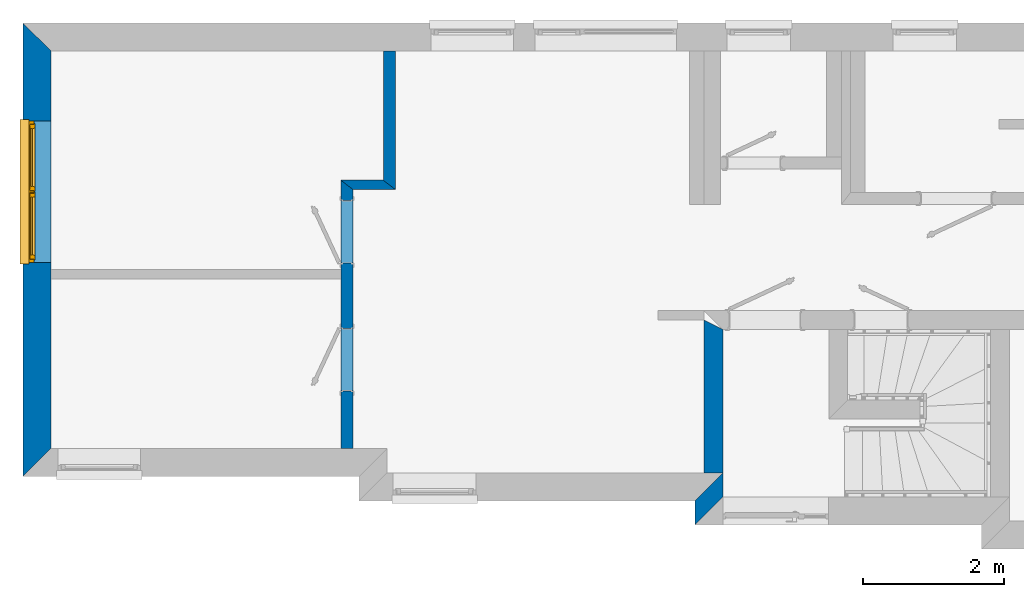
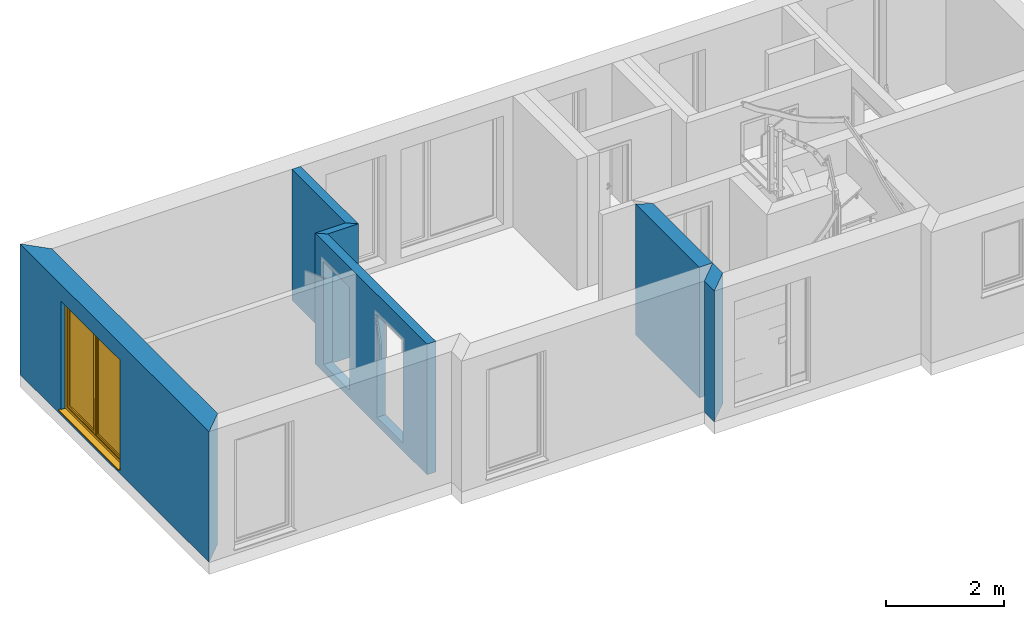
# One storey, part 3 of 13: 6 walls, 1 window, 3 openings.
"""IFC2X3 building model written with IfcOpenShell, lengths in millimetres."""

from ifc_helpers import new_model, si_unit, frame, origin_with_axes, place, context, project, spatial, faceted_brep, material, layer, layer_set, layer_usage, type_object, element, fill, save


model = new_model("IFC2X3")

# Units and contexts
model_context = context("Model", 3, world=origin_with_axes())
ifc_project = project(units=[si_unit("LENGTHUNIT", "METRE", prefix="MILLI")], contexts=[model_context])

# Site, building, storey
site_placement = place(None, origin_with_axes())
site = spatial("IfcSite", under=ifc_project, at=site_placement, Name="Site", CompositionType="ELEMENT")
building_placement = place(site_placement, origin_with_axes())
building = spatial("IfcBuilding", under=site, at=building_placement, Name="?", CompositionType="ELEMENT")
storey_placement = place(building_placement, origin_with_axes())
storey = spatial("IfcBuildingStorey", under=building, at=storey_placement, Name="Erdgeschoß", CompositionType="ELEMENT", Elevation=0.0)

# Wall
ifc_material_1 = material(Name="Material_AW")
ifc_layer_1 = layer(ifc_material_1, 395.0, ventilated=False)
ifc_layer_set_1 = layer_set([ifc_layer_1], Name="MaterialLayerSet_AW")
ifc_layer_usage_1 = layer_usage(ifc_layer_set_1, "AXIS2", "NEGATIVE", 197.5)
wall_1_placement = place(storey_placement, frame((9697.5, -6900.5, 0.0), z_axis=(0.0, 0.0, 1.0), x_axis=(0.0, 1.0, 0.0)))
element("IfcWall", 1, at=wall_1_placement, inside=storey, material=ifc_layer_usage_1, Name="AW-06", context=model_context, shape_type="Brep", body=[
    faceted_brep([(539.500007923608, -197.5, 0.0), (539.500007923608, -197.5, 2707.0), (197.5, -197.5, 2707.0), (197.5, -197.5, 0.0), (144.500007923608, 197.5, 0.0), (144.500007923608, 197.5, 150.0), (144.500007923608, 197.5, 2707.0), (539.500007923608, -197.5, 2707.0), (539.500007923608, -197.5, 0.0), (-197.5, 197.5, 0.0), (-197.5, 197.5, 150.0), (144.500007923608, 197.5, 150.0), (144.500007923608, 197.5, 0.0), (-197.5, 197.5, 150.0), (-197.5, 197.5, 2707.0), (144.500007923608, 197.5, 2707.0), (144.500007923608, 197.5, 150.0), (197.5, -197.5, 0.0), (197.5, -197.5, 2707.0), (-197.5, 197.5, 2707.0), (-197.5, 197.5, 150.0), (-197.5, 197.5, 0.0), (197.5, -197.5, 0.0), (-197.5, 197.5, 0.0), (144.500007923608, 197.5, 0.0), (539.500007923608, -197.5, 0.0), (-197.5, 197.5, 2707.0), (197.5, -197.5, 2707.0), (539.500007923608, -197.5, 2707.0), (144.500007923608, 197.5, 2707.0)], [[[0, 1, 2, 3]], [[4, 5, 6, 7, 8]], [[9, 10, 11, 12]], [[13, 14, 15, 16]], [[17, 18, 19, 20, 21]], [[22, 23, 24, 25]], [[26, 27, 28, 29]]]),
])

# Wall, opening, window
wall_2_placement = place(storey_placement, frame((197.5, -6217.5, 0.0), z_axis=(0.0, 0.0, 1.0), x_axis=(0.0, 1.0, 0.0)))
wall_2 = element("IfcWall", 2, at=wall_2_placement, inside=storey, material=ifc_layer_usage_1, Name="AW-10", context=model_context, shape_type="Brep", body=[
    faceted_brep([(5822.50010878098, -197.5, 0.0), (5822.50010878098, -197.5, 2707.0), (197.5, -197.5, 2707.0), (197.5, -197.5, 0.0), (6217.49987570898, 197.5, 0.0), (6217.49987570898, 197.5, 150.0), (6217.49987570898, 197.5, 2707.0), (5822.50010878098, -197.5, 2707.0), (5822.50010878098, -197.5, 0.0), (-197.5, 197.5, 0.0), (-197.5, 197.5, 150.0), (2829.5, 197.5, 150.0), (2829.5, 197.5, 116.0), (4829.5, 197.5, 116.0), (4829.5, 197.5, 150.0), (6217.49987570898, 197.5, 150.0), (6217.49987570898, 197.5, 0.0), (-197.5, 197.5, 150.0), (-197.5, 197.5, 2707.0), (6217.49987570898, 197.5, 2707.0), (6217.49987570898, 197.5, 150.0), (4829.5, 197.5, 150.0), (4829.5, 197.5, 116.0), (2829.5, 197.5, 116.0), (2829.5, 197.5, 150.0), (197.5, -197.5, 0.0), (197.5, -197.5, 2707.0), (-197.5, 197.5, 2707.0), (-197.5, 197.5, 150.0), (-197.5, 197.5, 0.0), (197.5, -197.5, 0.0), (-197.5, 197.5, 0.0), (6217.49987570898, 197.5, 0.0), (5822.50010878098, -197.5, 0.0), (-197.5, 197.5, 2707.0), (197.5, -197.5, 2707.0), (5822.50010878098, -197.5, 2707.0), (6217.49987570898, 197.5, 2707.0)], [[[0, 1, 2, 3]], [[4, 5, 6, 7, 8]], [[9, 10, 11, 12, 13, 14, 15, 16]], [[17, 18, 19, 20, 21, 22, 23, 24]], [[25, 26, 27, 28, 29]], [[30, 31, 32, 33]], [[34, 35, 36, 37]]]),
])
opening_1_placement = place(wall_2_placement, frame((2829.5, 0.0, 116.0), z_axis=(0.0, 0.0, 1.0), x_axis=(1.0, 0.0, 0.0)))
opening_1 = element("IfcOpeningElement", 3, at=opening_1_placement, cuts=wall_2, Name="AW-10|FE09", context=model_context, shape_type="Brep", body=[
    faceted_brep([(0.0, 207.5, 0.0), (0.0, 207.5, 2244.0), (2000.0, 207.5, 2244.0), (2000.0, 207.5, 0.0), (0.0, -207.5, 0.0), (0.0, -207.5, 2244.0), (0.0, 207.5, 2244.0), (0.0, 207.5, 0.0), (2000.0, -207.5, 0.0), (0.0, -207.5, 0.0), (0.0, 207.5, 0.0), (2000.0, 207.5, 0.0), (2000.0, -207.5, 2244.0), (2000.0, -207.5, 0.0), (2000.0, 207.5, 0.0), (2000.0, 207.5, 2244.0), (0.0, -207.5, 2244.0), (2000.0, -207.5, 2244.0), (2000.0, 207.5, 2244.0), (0.0, 207.5, 2244.0), (0.0, -207.5, 0.0), (2000.0, -207.5, 0.0), (2000.0, -207.5, 2244.0), (0.0, -207.5, 2244.0)], [[[0, 1, 2, 3]], [[4, 5, 6, 7]], [[8, 9, 10, 11]], [[12, 13, 14, 15]], [[16, 17, 18, 19]], [[20, 21, 22, 23]]]),
])
window_style = type_object("IfcWindowStyle", Name="FE09", ConstructionType="NOTDEFINED", OperationType="DOUBLE_PANEL_VERTICAL", ParameterTakesPrecedence=True, Sizeable=False)
window_placement = place(opening_1_placement, frame((2000.0, 77.5, 0.0), z_axis=(0.0, 0.0, 1.0), x_axis=(-1.0, 0.0, 0.0)))
window = element("IfcWindow", 4, at=window_placement, inside=storey, type_object=window_style, Name="FE09", OverallHeight=2244.0, OverallWidth=2000.0, context=model_context, shape_type="Brep", body=[
    faceted_brep([(0.0, -36.0, 0.0), (2000.0, -36.0, 0.0), (1985.0, -36.0, 15.0), (15.0, -36.0, 15.0), (15.0, 36.0, 15.0), (1985.0, 36.0, 15.0), (2000.0, 36.0, 0.0), (0.0, 36.0, 0.0), (0.0, 36.0, 0.0), (2000.0, 36.0, 0.0), (2000.0, -36.0, 0.0), (0.0, -36.0, 0.0), (2000.0, -36.0, 0.0), (2000.0, -36.0, 2244.0), (1985.0, -36.0, 2229.0), (1985.0, -36.0, 15.0), (1985.0, 36.0, 15.0001220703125), (1985.0, 36.0, 2229.0), (2000.0, 36.0, 2244.0), (2000.0, 36.0, 0.0001220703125), (2000.0, 36.0, 0.0), (2000.0, 36.0, 2244.0), (2000.0, -36.0, 2244.0), (2000.0, -36.0, 0.0), (2000.0, -36.0, 2244.0), (0.0, -36.0, 2244.0), (15.0, -36.0, 2229.0), (1985.0, -36.0, 2229.0), (1985.0, 36.0, 2229.0), (15.0, 36.0, 2229.0), (0.0, 36.0, 2244.0), (2000.0, 36.0, 2244.0), (2000.0, 36.0, 2244.0), (0.0, 36.0, 2244.0), (0.0, -36.0, 2244.0), (2000.0, -36.0, 2244.0), (0.0, -36.0, 2244.0), (0.0, -36.0, 0.0), (15.0, -36.0, 15.0), (15.0, -36.0, 2229.0), (15.0, 36.0, 2228.99975585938), (15.0, 36.0, 14.999755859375), (0.0, 36.0, -0.000244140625), (0.0, 36.0, 2243.99975585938), (0.0, 36.0, 2244.0), (0.0, 36.0, 0.0), (0.0, -36.0, 0.0), (0.0, -36.0, 2244.0), (1000.0, 36.0, 15.0), (15.0, 36.0, 15.0), (43.0, 36.0, 43.0), (1000.0, 36.0, 43.0), (1000.0, 36.0, 43.0), (43.0, 36.0, 43.0), (43.0, -21.0, 43.0), (1000.0, -21.0, 43.0), (1000.0, -21.0, 43.0), (43.0, -21.0, 43.0), (60.0, -21.0, 60.0), (1000.0, -21.0, 60.0), (1000.0, -21.0, 60.0), (60.0, -21.0, 60.0), (60.0, -25.0, 60.0), (1000.0, -25.0, 60.0), (1000.0, -25.0, 60.0), (60.0, -25.0, 60.0), (53.0, -36.0009764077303, 52.99914512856), (1000.0, -36.0009764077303, 52.99914512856), (1000.0, -36.0, 53.0), (53.0, -36.0, 53.0), (15.0, -36.0, 15.0), (1000.0, -36.0, 15.0), (15.0, 36.0, 2229.0), (1000.0, 36.0, 2229.0), (1000.0, 36.0, 2201.0), (43.0, 36.0, 2201.0), (42.999755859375, 36.0, 2201.0), (999.999755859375, 36.0, 2201.0), (999.999755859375, -21.0, 2201.0), (42.999755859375, -21.0, 2201.0), (42.999755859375, -21.0, 2201.0), (999.999755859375, -21.0, 2201.0), (999.999755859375, -21.0, 2184.0), (59.999755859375, -21.0, 2184.0), (60.0, -21.0, 2184.0), (1000.0, -21.0, 2184.0), (1000.0, -25.0, 2184.0), (60.0, -25.0, 2184.0), (60.0, -25.0, 2184.0), (1000.0, -25.0, 2184.0), (1000.0, -36.0009765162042, 2191.00097633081), (53.0, -36.0009765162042, 2191.00097633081), (52.999755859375, -36.0, 2191.0), (999.999755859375, -36.0, 2191.0), (999.999755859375, -36.0, 2229.0), (14.999755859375, -36.0, 2229.0), (15.0, 36.0, 15.0), (15.0, 36.0, 2229.0), (43.0, 36.0, 2201.0), (43.0, 36.0, 43.0), (43.0, 36.0, 42.9999389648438), (43.0, 36.0, 2201.0), (43.0, -21.0, 2201.0), (43.0, -21.0, 42.9999389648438), (43.0, -21.0, 42.9999389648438), (43.0, -21.0, 2201.0), (60.0, -21.0, 2184.0), (60.0, -21.0, 59.9999389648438), (60.0, -21.0, 60.0000305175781), (60.0, -21.0, 2184.0), (60.0, -25.0, 2184.0), (60.0, -25.0, 60.0000305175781), (60.0, -25.0, 60.0000305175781), (60.0, -25.0, 2184.0), (52.9990236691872, -36.0009765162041, 2191.0), (52.9990236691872, -36.0009765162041, 53.0000305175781), (53.0, -36.0, 53.0), (53.0, -36.0, 2191.0), (15.0, -36.0, 2229.0), (15.0, -36.0, 15.0), (1985.0, 36.0, 15.0), (1000.0, 36.0, 15.0), (1000.0, 36.0, 43.0), (1957.0, 36.0, 43.0), (1957.0, 36.0, 43.0), (1000.0, 36.0, 43.0), (1000.0, -21.0, 43.0), (1957.0, -21.0, 43.0), (1957.0, -21.0, 43.0), (1000.0, -21.0, 43.0), (1000.0, -21.0, 60.0), (1940.0, -21.0, 60.0), (1940.0, -21.0, 60.0), (1000.0, -21.0, 60.0), (1000.0, -25.0, 60.0), (1940.0, -25.0, 60.0), (1940.0, -25.0, 60.0), (1000.0, -25.0, 60.0), (1000.0, -36.0009764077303, 52.99914512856), (1947.0, -36.0009764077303, 52.99914512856), (1947.0, -36.0, 53.0), (1000.0, -36.0, 53.0), (1000.0, -36.0, 15.0), (1985.0, -36.0, 15.0), (1985.0, 36.0, 2229.0), (1985.0, 36.0, 15.0), (1957.0, 36.0, 43.0), (1957.0, 36.0, 2201.0), (1957.0, 36.0, 2201.0), (1957.0, 36.0, 43.0), (1957.0, -21.0, 43.0), (1957.0, -21.0, 2201.0), (1957.0, -21.0, 2201.0), (1957.0, -21.0, 43.0), (1940.0, -21.0, 60.0), (1940.0, -21.0, 2184.0), (1940.0, -21.0, 2184.0), (1940.0, -21.0, 60.0), (1940.0, -25.0, 60.0), (1940.0, -25.0, 2184.0), (1940.0, -25.0, 2184.0), (1940.0, -25.0, 60.0), (1947.00097633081, -36.0009765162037, 53.0), (1947.00097633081, -36.0009765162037, 2191.0), (1947.0, -36.0, 2191.0), (1947.0, -36.0, 53.0), (1985.0, -36.0, 15.0), (1985.0, -36.0, 2229.0), (1000.0, 36.0, 2229.0), (1985.0, 36.0, 2229.0), (1957.0, 36.0, 2201.0), (1000.0, 36.0, 2201.0), (1000.0, 36.0, 2201.0), (1957.0, 36.0, 2201.0), (1957.0, -21.0, 2201.0), (1000.0, -21.0, 2201.0), (1000.0, -21.0, 2201.0), (1957.0, -21.0, 2201.0), (1940.0, -21.0, 2184.0), (1000.0, -21.0, 2184.0), (1000.0, -21.0, 2184.0), (1940.0, -21.0, 2184.0), (1940.0, -25.0, 2184.0), (1000.0, -25.0, 2184.0), (1000.0, -25.0, 2184.0), (1940.0, -25.0, 2184.0), (1947.0, -36.0009765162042, 2191.00097633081), (1000.0, -36.0009765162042, 2191.00097633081), (1000.0, -36.0, 2191.0), (1947.0, -36.0, 2191.0), (1985.0, -36.0, 2229.0), (1000.0, -36.0, 2229.0), (997.0, 52.0, 33.0), (33.0, 52.0, 33.0), (96.0, 52.0, 96.0), (934.0, 52.0, 96.0), (934.000244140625, 52.0, 96.0), (96.000244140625, 52.0, 96.0), (110.000244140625, 19.9990238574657, 110.000610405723), (920.000244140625, 19.9990238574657, 110.000610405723), (920.0, 20.0, 110.0), (110.0, 20.0, 110.0), (103.0, 20.0, 103.0), (927.0, 20.0, 103.0), (927.0, 20.0, 103.0), (103.0, 20.0, 103.0), (103.0, -4.0, 103.0), (927.0, -4.0, 103.0), (927.0, -4.0, 103.0), (103.0, -4.0, 103.0), (110.0, -4.0, 110.0), (920.0, -4.0, 110.0), (920.0, -4.0, 110.0), (110.0, -4.0, 110.0), (102.0, -21.0019530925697, 101.999267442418), (928.0, -21.0019530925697, 101.999267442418), (928.0, -21.0, 102.0), (102.0, -21.0, 102.0), (51.0, -21.0, 51.0), (979.0, -21.0, 51.0), (979.0, -21.0, 51.0), (51.0, -21.0, 51.0), (51.0, 36.0, 51.0), (979.0, 36.0, 51.0), (979.0, 36.0, 51.0), (51.0, 36.0, 51.0), (33.0, 36.0, 33.0), (997.0, 36.0, 33.0), (997.0, 36.0, 33.0), (33.0, 36.0, 33.0), (33.0, 52.0, 33.0), (997.0, 52.0, 33.0), (997.0, 52.0, 2211.0), (997.0, 52.0, 33.0), (934.0, 52.0, 96.0), (934.0, 52.0, 2148.0), (934.0, 51.9999999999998, 2148.0), (934.0, 51.9999999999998, 96.0), (919.999511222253, 19.9990228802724, 110.0), (919.999511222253, 19.9990228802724, 2134.0), (920.0, 20.0, 2134.0), (920.0, 20.0, 110.0), (927.0, 20.0, 103.0), (927.0, 20.0, 2141.0), (927.0, 20.0, 2141.0), (927.0, 20.0, 103.0), (927.0, -4.0, 103.0), (927.0, -4.0, 2141.0), (927.0, -4.0, 2141.0), (927.0, -4.0, 103.0), (920.0, -4.0, 110.0), (920.0, -4.0, 2134.0), (920.0, -4.00000000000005, 2134.0), (920.0, -4.00000000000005, 110.0), (928.000732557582, -21.0019530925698, 102.0), (928.000732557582, -21.0019530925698, 2142.0), (928.0, -21.0, 2142.0), (928.0, -21.0, 102.0), (979.0, -21.0, 51.0), (979.0, -21.0, 2193.0), (979.0, -21.0, 2193.0), (979.0, -21.0, 51.0), (979.0, 36.0, 51.0), (979.0, 36.0, 2193.0), (979.0, 36.0, 2193.0), (979.0, 36.0, 51.0), (997.0, 36.0, 33.0), (997.0, 36.0, 2211.0), (997.0, 36.0, 2211.0), (997.0, 36.0, 33.0), (997.0, 52.0, 33.0), (997.0, 52.0, 2211.0), (33.0, 52.0, 2211.0), (997.0, 52.0, 2211.0), (934.0, 52.0, 2148.0), (96.0, 52.0, 2148.0), (95.9999999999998, 52.0, 2148.0), (934.0, 52.0, 2148.0), (920.0, 19.9990228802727, 2133.99951122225), (110.0, 19.9990228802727, 2133.99951122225), (109.999755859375, 20.0, 2134.0), (919.999755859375, 20.0, 2134.0), (926.999755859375, 20.0, 2141.0), (102.999755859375, 20.0, 2141.0), (102.999755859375, 20.0, 2141.0), (926.999755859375, 20.0, 2141.0), (926.999755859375, -4.0, 2141.0), (102.999755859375, -4.0, 2141.0), (102.999755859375, -4.0, 2141.0), (926.999755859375, -4.0, 2141.0), (919.999755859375, -4.0, 2134.0), (109.999755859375, -4.0, 2134.0), (109.999755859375, -4.0, 2134.0), (919.999755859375, -4.0, 2134.0), (927.999755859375, -21.0019530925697, 2142.00073255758), (101.999755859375, -21.0019530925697, 2142.00073255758), (102.0, -21.0, 2142.0), (928.0, -21.0, 2142.0), (979.0, -21.0, 2193.0), (51.0, -21.0, 2193.0), (51.0, -21.0, 2193.0), (979.0, -21.0, 2193.0), (979.0, 36.0, 2193.0), (51.0, 36.0, 2193.0), (51.0, 36.0, 2193.0), (979.0, 36.0, 2193.0), (997.0, 36.0, 2211.0), (33.0, 36.0, 2211.0), (33.0, 36.0, 2211.0), (997.0, 36.0, 2211.0), (997.0, 52.0, 2211.0), (33.0, 52.0, 2211.0), (33.0, 52.0, 33.0000305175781), (33.0, 52.0, 2211.0), (96.0, 52.0, 2148.0), (96.0, 52.0, 96.0000305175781), (96.0, 52.0, 96.0000305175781), (96.0, 52.0, 2148.0), (110.000488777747, 19.9990228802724, 2134.0), (110.000488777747, 19.9990228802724, 110.000030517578), (110.0, 20.0, 110.0), (110.0, 20.0, 2134.0), (103.0, 20.0, 2141.0), (103.0, 20.0, 103.0), (103.0, 20.0, 102.999969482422), (103.0, 20.0, 2141.0), (103.0, -4.0, 2141.0), (103.0, -4.0, 102.999969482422), (103.0, -4.0, 102.999969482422), (103.0, -4.0, 2141.0), (110.0, -4.0, 2134.0), (110.0, -4.0, 109.999969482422), (110.0, -4.0, 110.0), (110.0, -4.0, 2134.0), (101.999267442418, -21.0019530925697, 2142.0), (101.999267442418, -21.0019530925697, 102.0), (102.0, -21.0, 102.0), (102.0, -21.0, 2142.0), (51.0, -21.0, 2193.0), (51.0, -21.0, 51.0), (51.0, -21.0, 51.0), (51.0, -21.0, 2193.0), (51.0, 36.0, 2193.0), (51.0, 36.0, 51.0), (51.0, 36.0, 51.0), (51.0, 36.0, 2193.0), (33.0, 36.0, 2211.0), (33.0, 36.0, 33.0), (33.0, 36.0, 33.0000305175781), (33.0, 36.0, 2211.0), (33.0, 52.0, 2211.0), (33.0, 52.0, 33.0000305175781), (1967.0, 52.0, 33.0), (1003.0, 52.0, 33.0), (1066.0, 52.0, 96.0), (1904.0, 52.0, 96.0), (1904.00024414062, 52.0, 96.0), (1066.00024414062, 52.0, 96.0), (1080.00024414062, 19.9990238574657, 110.000610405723), (1890.00024414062, 19.9990238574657, 110.000610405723), (1890.0, 20.0, 110.0), (1080.0, 20.0, 110.0), (1073.0, 20.0, 103.0), (1897.0, 20.0, 103.0), (1897.00024414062, 20.0, 103.0), (1073.00024414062, 20.0, 103.0), (1073.00024414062, -4.00000000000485, 103.00001525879), (1897.00024414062, -4.00000000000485, 103.00001525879), (1897.00024414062, -4.0, 103.0), (1073.00024414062, -4.0, 103.0), (1080.00024414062, -4.0, 110.0), (1890.00024414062, -4.0, 110.0), (1890.0, -4.0, 110.0), (1080.0, -4.0, 110.0), (1072.0, -21.0019530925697, 101.999267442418), (1898.0, -21.0019530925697, 101.999267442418), (1898.0, -21.0, 102.0), (1072.0, -21.0, 102.0), (1021.0, -21.0, 51.0), (1949.0, -21.0, 51.0), (1949.00024414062, -21.0, 51.0), (1021.00024414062, -21.0, 51.0), (1021.00024414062, 36.0, 51.0), (1949.00024414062, 36.0, 51.0), (1949.00024414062, 36.0, 51.0), (1021.00024414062, 36.0, 51.0), (1003.00024414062, 36.0, 33.0), (1967.00024414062, 36.0, 33.0), (1967.0, 36.0, 33.0), (1003.0, 36.0, 33.0), (1003.0, 52.0, 33.0), (1967.0, 52.0, 33.0), (1967.0, 52.0, 2211.0), (1967.0, 52.0, 33.0), (1904.0, 52.0, 96.0), (1904.0, 52.0, 2148.0), (1904.0, 52.0, 2148.0), (1904.0, 52.0, 95.9999999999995), (1889.99951122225, 19.9990228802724, 110.0), (1889.99951122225, 19.9990228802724, 2134.0), (1890.0, 20.0, 2134.0), (1890.0, 20.0, 110.0), (1897.0, 20.0, 103.0), (1897.0, 20.0, 2141.0), (1897.0, 20.0, 2141.0), (1897.0, 20.0, 103.0), (1897.0, -4.0, 103.0), (1897.0, -4.0, 2141.0), (1897.0, -4.0, 2141.0), (1897.0, -4.0, 103.0), (1890.0, -4.0, 110.0), (1890.0, -4.0, 2134.0), (1890.0, -3.9999999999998, 2134.0), (1890.0, -3.9999999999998, 110.0), (1898.00073255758, -21.0019530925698, 102.0), (1898.00073255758, -21.0019530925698, 2142.0), (1898.0, -21.0, 2142.0), (1898.0, -21.0, 102.0), (1949.0, -21.0, 51.0), (1949.0, -21.0, 2193.0), (1949.0, -21.0, 2193.0), (1949.0, -21.0, 51.0), (1949.0, 36.0, 51.0), (1949.0, 36.0, 2193.0), (1949.0, 36.0, 2193.0), (1949.0, 36.0, 51.0), (1967.0, 36.0, 33.0), (1967.0, 36.0, 2211.0), (1967.0, 36.0, 2211.0), (1967.0, 36.0, 33.0), (1967.0, 52.0, 33.0), (1967.0, 52.0, 2211.0), (1003.0, 52.0, 2211.0), (1967.0, 52.0, 2211.0), (1904.0, 52.0, 2148.0), (1066.0, 52.0, 2148.0), (1065.99975585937, 52.0, 2148.0), (1903.99975585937, 52.0, 2148.0), (1889.99975585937, 19.9990228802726, 2133.99951122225), (1079.99975585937, 19.9990228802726, 2133.99951122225), (1079.99975585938, 20.0, 2134.0), (1889.99975585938, 20.0, 2134.0), (1896.99975585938, 20.0, 2141.0), (1072.99975585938, 20.0, 2141.0), (1072.99975585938, 20.0, 2141.0), (1896.99975585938, 20.0, 2141.0), (1896.99975585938, -4.0, 2141.0), (1072.99975585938, -4.0, 2141.0), (1072.99975585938, -4.0, 2141.0), (1896.99975585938, -4.0, 2141.0), (1889.99975585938, -4.0, 2134.0), (1079.99975585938, -4.0, 2134.0), (1079.99975585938, -4.0, 2134.0), (1889.99975585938, -4.0, 2134.0), (1897.99975585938, -21.0019530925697, 2142.00073255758), (1071.99975585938, -21.0019530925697, 2142.00073255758), (1072.0, -21.0, 2142.0), (1898.0, -21.0, 2142.0), (1949.0, -21.0, 2193.0), (1021.0, -21.0, 2193.0), (1020.99975585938, -21.0, 2193.0), (1948.99975585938, -21.0, 2193.0), (1948.99975585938, 36.0, 2193.0), (1020.99975585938, 36.0, 2193.0), (1020.99975585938, 36.0, 2193.0), (1948.99975585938, 36.0, 2193.0), (1966.99975585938, 36.0, 2211.0), (1002.99975585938, 36.0, 2211.0), (1003.0, 36.0, 2211.0), (1967.0, 36.0, 2211.0), (1967.0, 52.0, 2211.0), (1003.0, 52.0, 2211.0), (1003.0, 52.0, 33.0000305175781), (1003.0, 52.0, 2211.0), (1066.0, 52.0, 2148.0), (1066.0, 52.0, 96.0000305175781), (1066.0, 52.0, 96.0000305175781), (1066.0, 52.0, 2148.0), (1080.00048877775, 19.9990228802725, 2134.0), (1080.00048877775, 19.9990228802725, 110.000030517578), (1080.0, 20.0, 110.000091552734), (1080.0, 20.0, 2134.0), (1073.0, 20.0, 2141.0), (1073.0, 20.0, 103.000091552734), (1073.0, 20.0, 102.999969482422), (1073.0, 20.0, 2141.0), (1073.0, -4.0, 2141.0), (1073.0, -4.0, 102.999969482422), (1073.0, -4.0, 102.999969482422), (1073.0, -4.0, 2141.0), (1080.0, -4.0, 2134.0), (1080.0, -4.0, 109.999969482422), (1080.0, -4.0, 110.000091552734), (1080.0, -4.0, 2134.0), (1071.99926744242, -21.0019530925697, 2142.0), (1071.99926744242, -21.0019530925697, 102.000091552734), (1072.0, -21.0, 102.000076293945), (1072.0, -21.0, 2142.0), (1021.0, -21.0, 2193.0), (1021.0, -21.0, 51.0000762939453), (1021.0, -21.0, 51.0), (1021.0, -21.0, 2193.0), (1021.0, 36.0, 2193.0), (1021.0, 36.0, 51.0), (1021.0, 36.0, 51.0), (1021.0, 36.0, 2193.0), (1003.0, 36.0, 2211.0), (1003.0, 36.0, 33.0), (1003.0, 36.0, 33.0000305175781), (1003.0, 36.0, 2211.0), (1003.0, 52.0, 2211.0), (1003.0, 52.0, 33.0000305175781), (1000.0, -36.0, 2184.0), (1023.0, -36.0, 2184.0), (1030.0, -25.0, 2184.0), (1030.0, -21.0, 2184.0), (1008.0, -21.0, 2184.0), (1008.0, 36.0, 2184.0), (1000.0, 36.0, 2184.0), (992.0, 36.0, 2184.0), (992.0, -21.0, 2184.0), (970.0, -21.0, 2184.0), (970.0, -25.0, 2184.0), (977.0, -36.0, 2184.0), (1000.0, 36.0, 2184.0), (1008.0, 36.0, 2184.0), (1008.0, 36.0, 60.0), (1000.0, 36.0, 60.0), (992.0, 36.0, 60.0), (992.0, 36.0, 2184.0), (992.0, 36.0, 2184.0), (992.0, 36.0, 60.0), (992.0, -21.0, 60.0), (992.0, -21.0, 2184.0), (992.0, -21.0, 2184.0), (992.0, -21.0, 60.0), (970.0, -21.0, 60.0), (970.0, -21.0, 2184.0), (1008.0, -21.0, 60.0), (1008.0, -21.0, 2184.0), (1030.0, -21.0, 2184.0), (1030.0, -21.0, 60.0), (970.0, -21.0, 2184.0), (970.0, -21.0, 60.0), (970.0, -25.0, 60.0), (970.0, -25.0, 2184.0), (970.0, -25.0, 2184.0), (970.0, -25.0, 60.0), (977.000976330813, -36.000976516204, 60.0), (977.000976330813, -36.000976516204, 2184.0), (977.0, -36.0, 2184.0), (977.0, -36.0, 60.0), (1000.0, -36.0, 60.0), (1023.0, -36.0, 60.0), (1023.0, -36.0, 2184.0), (1000.0, -36.0, 2184.0), (1000.0, 36.0, 60.0), (1008.0, 36.0, 60.0), (1008.0, -21.0, 60.0), (1030.0, -21.0, 60.0), (1030.0, -25.0, 60.0), (1023.0, -36.0, 60.0), (1000.0, -36.0, 60.0), (977.0, -36.0, 60.0), (970.0, -25.0, 60.0), (970.0, -21.0, 60.0), (992.0, -21.0, 60.0), (992.0, 36.0, 60.0), (1008.0, 36.0, 60.0), (1008.0, 36.0, 2184.0), (1008.0, -21.0, 2184.0), (1008.0, -21.0, 60.0), (1030.0, -21.0, 60.0), (1030.0, -21.0, 2184.0), (1030.0, -25.0, 2184.0), (1030.0, -25.0, 60.0), (1030.0, -25.0, 60.0), (1030.0, -25.0, 2184.0), (1022.99902366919, -36.0009765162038, 2184.0), (1022.99902366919, -36.0009765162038, 60.0), (110.0, 20.0, 110.0), (110.0, 20.0, 2134.0), (920.0, 20.0, 2134.0), (920.0, 20.0, 110.0), (110.0, -4.0, 110.0), (920.0, -4.0, 110.0), (920.0, -4.0, 2134.0), (110.0, -4.0, 2134.0), (1080.0, 20.0, 110.0), (1080.0, 20.0, 2134.0), (1890.0, 20.0, 2134.0), (1890.0, 20.0, 110.0), (1080.0, -4.0, 110.0), (1890.0, -4.0, 110.0), (1890.0, -4.0, 2134.0), (1080.0, -4.0, 2134.0), (-20.0, -36.0, 0.5), (-20.0, -160.0, 0.5), (2020.0, -160.0, 0.5), (2020.0, -36.0, 0.5), (-20.0, -36.0, -19.5), (-20.0, -36.0, 0.5), (2020.0, -36.0, 0.5), (2020.0, -36.0, -19.5), (-20.0, -160.0, -19.5), (-20.0, -36.0, -19.5), (2020.0, -36.0, -19.5), (2020.0, -160.0, -19.5), (-20.0, -160.0, 0.5), (-20.0, -160.0, -19.5), (2020.0, -160.0, -19.5), (2020.0, -160.0, 0.5), (-20.0, -160.0, -19.5), (-20.0, -160.0, 0.5), (-20.0, -36.0, 0.5), (-20.0, -36.0, -19.5), (2020.0, -160.0, 0.5), (2020.0, -160.0, -19.5), (2020.0, -36.0, -19.5), (2020.0, -36.0, 0.5)], [[[0, 1, 2, 3]], [[4, 5, 6, 7]], [[8, 9, 10, 11]], [[12, 13, 14, 15]], [[16, 17, 18, 19]], [[20, 21, 22, 23]], [[24, 25, 26, 27]], [[28, 29, 30, 31]], [[32, 33, 34, 35]], [[36, 37, 38, 39]], [[40, 41, 42, 43]], [[44, 45, 46, 47]], [[48, 49, 50, 51]], [[52, 53, 54, 55]], [[56, 57, 58, 59]], [[60, 61, 62, 63]], [[64, 65, 66, 67]], [[68, 69, 70, 71]], [[72, 73, 74, 75]], [[76, 77, 78, 79]], [[80, 81, 82, 83]], [[84, 85, 86, 87]], [[88, 89, 90, 91]], [[92, 93, 94, 95]], [[96, 97, 98, 99]], [[100, 101, 102, 103]], [[104, 105, 106, 107]], [[108, 109, 110, 111]], [[112, 113, 114, 115]], [[116, 117, 118, 119]], [[120, 121, 122, 123]], [[124, 125, 126, 127]], [[128, 129, 130, 131]], [[132, 133, 134, 135]], [[136, 137, 138, 139]], [[140, 141, 142, 143]], [[144, 145, 146, 147]], [[148, 149, 150, 151]], [[152, 153, 154, 155]], [[156, 157, 158, 159]], [[160, 161, 162, 163]], [[164, 165, 166, 167]], [[168, 169, 170, 171]], [[172, 173, 174, 175]], [[176, 177, 178, 179]], [[180, 181, 182, 183]], [[184, 185, 186, 187]], [[188, 189, 190, 191]], [[192, 193, 194, 195]], [[196, 197, 198, 199]], [[200, 201, 202, 203]], [[204, 205, 206, 207]], [[208, 209, 210, 211]], [[212, 213, 214, 215]], [[216, 217, 218, 219]], [[220, 221, 222, 223]], [[224, 225, 226, 227]], [[228, 229, 230, 231]], [[232, 233, 234, 235]], [[236, 237, 238, 239]], [[240, 241, 242, 243]], [[244, 245, 246, 247]], [[248, 249, 250, 251]], [[252, 253, 254, 255]], [[256, 257, 258, 259]], [[260, 261, 262, 263]], [[264, 265, 266, 267]], [[268, 269, 270, 271]], [[272, 273, 274, 275]], [[276, 277, 278, 279]], [[280, 281, 282, 283]], [[284, 285, 286, 287]], [[288, 289, 290, 291]], [[292, 293, 294, 295]], [[296, 297, 298, 299]], [[300, 301, 302, 303]], [[304, 305, 306, 307]], [[308, 309, 310, 311]], [[312, 313, 314, 315]], [[316, 317, 318, 319]], [[320, 321, 322, 323]], [[324, 325, 326, 327]], [[328, 329, 330, 331]], [[332, 333, 334, 335]], [[336, 337, 338, 339]], [[340, 341, 342, 343]], [[344, 345, 346, 347]], [[348, 349, 350, 351]], [[352, 353, 354, 355]], [[356, 357, 358, 359]], [[360, 361, 362, 363]], [[364, 365, 366, 367]], [[368, 369, 370, 371]], [[372, 373, 374, 375]], [[376, 377, 378, 379]], [[380, 381, 382, 383]], [[384, 385, 386, 387]], [[388, 389, 390, 391]], [[392, 393, 394, 395]], [[396, 397, 398, 399]], [[400, 401, 402, 403]], [[404, 405, 406, 407]], [[408, 409, 410, 411]], [[412, 413, 414, 415]], [[416, 417, 418, 419]], [[420, 421, 422, 423]], [[424, 425, 426, 427]], [[428, 429, 430, 431]], [[432, 433, 434, 435]], [[436, 437, 438, 439]], [[440, 441, 442, 443]], [[444, 445, 446, 447]], [[448, 449, 450, 451]], [[452, 453, 454, 455]], [[456, 457, 458, 459]], [[460, 461, 462, 463]], [[464, 465, 466, 467]], [[468, 469, 470, 471]], [[472, 473, 474, 475]], [[476, 477, 478, 479]], [[480, 481, 482, 483]], [[484, 485, 486, 487]], [[488, 489, 490, 491]], [[492, 493, 494, 495]], [[496, 497, 498, 499]], [[500, 501, 502, 503]], [[504, 505, 506, 507]], [[508, 509, 510, 511]], [[512, 513, 514, 515, 516, 517, 518, 519, 520, 521, 522, 523]], [[524, 525, 526, 527, 528, 529]], [[530, 531, 532, 533]], [[534, 535, 536, 537]], [[538, 539, 540, 541]], [[542, 543, 544, 545]], [[546, 547, 548, 549]], [[550, 551, 552, 553, 554, 555]], [[556, 557, 558, 559, 560, 561, 562, 563, 564, 565, 566, 567]], [[568, 569, 570, 571]], [[572, 573, 574, 575]], [[576, 577, 578, 579]], [[580, 581, 582, 583]], [[584, 585, 586, 587]], [[588, 589, 590, 591]], [[592, 593, 594, 595]], [[596, 597, 598, 599]], [[600, 601, 602, 603]], [[604, 605, 606, 607]], [[608, 609, 610, 611]], [[612, 613, 614, 615]], [[616, 617, 618, 619]]]),
])
fill(opening_1, window)

# Wall
ifc_material_2 = material(Name="Material_IW")
ifc_layer_2 = layer(ifc_material_2, 264.0, ventilated=False)
ifc_layer_set_2 = layer_set([ifc_layer_2], Name="MaterialLayerSet_IW")
ifc_layer_usage_2 = layer_usage(ifc_layer_set_2, "AXIS2", "NEGATIVE", 132.0)
wall_3_placement = place(storey_placement, frame((9763.0, -6361.0, 0.0), z_axis=(0.0, 0.0, 1.0), x_axis=(0.0, 1.0, 0.0)))
element("IfcWall", 5, at=wall_3_placement, inside=storey, material=ifc_layer_usage_2, Name="IW-01", context=model_context, shape_type="Brep", body=[
    faceted_brep([(2028.00002958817, -132.0, 0.0), (2028.00002958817, -132.0, 2707.0), (0.0, -132.0, 2707.0), (0.0, -132.0, 0.0), (2160.00002958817, 132.0, 0.0), (2160.00002958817, 132.0, 2707.0), (2028.00002958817, -132.0, 2707.0), (2028.00002958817, -132.0, 0.0), (0.0, 132.0, 0.0), (0.0, 132.0, 2707.0), (2160.00002958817, 132.0, 2707.0), (2160.00002958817, 132.0, 0.0), (0.0, -132.0, 0.0), (0.0, -132.0, 2707.0), (0.0, 132.0, 2707.0), (0.0, 132.0, 0.0), (0.0, -132.0, 0.0), (0.0, 132.0, 0.0), (2160.00002958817, 132.0, 0.0), (2028.00002958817, -132.0, 0.0), (0.0, -132.0, 2707.0), (2028.00002958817, -132.0, 2707.0), (2160.00002958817, 132.0, 2707.0), (0.0, 132.0, 2707.0)], [[[0, 1, 2, 3]], [[4, 5, 6, 7]], [[8, 9, 10, 11]], [[12, 13, 14, 15]], [[16, 17, 18, 19]], [[20, 21, 22, 23]]]),
])

# Wall, openings
ifc_layer_3 = layer(ifc_material_2, 172.0, ventilated=False)
ifc_layer_set_3 = layer_set([ifc_layer_3], Name="MaterialLayerSet_IW")
ifc_layer_usage_3 = layer_usage(ifc_layer_set_3, "AXIS2", "NEGATIVE", 86.0)
wall_4_placement = place(storey_placement, frame((4581.0, -6020.0, 0.0), z_axis=(0.0, 0.0, 1.0), x_axis=(0.0, 1.0, 0.0)))
wall_4 = element("IfcWall", 6, at=wall_4_placement, inside=storey, material=ifc_layer_usage_3, Name="IW-13", context=model_context, shape_type="Brep", body=[
    faceted_brep([(3663.00011698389, -86.0, 0.0), (3663.00011698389, -86.0, 2707.0), (0.0, -86.0, 2707.0), (0.0, -86.0, 0.0), (3795.00003133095, 86.0, 0.0), (3795.00003133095, 86.0, 2707.0), (3663.00011698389, -85.9999999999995, 2707.0), (3663.00011698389, -85.9999999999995, 0.0), (0.0, 86.0, 0.0), (0.0, 86.0, 2707.0), (3795.00003133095, 86.0, 2707.0), (3795.00003133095, 86.0, 0.0), (0.0, -86.0, 0.0), (0.0, -86.0, 2707.0), (0.0, 86.0, 2707.0), (0.0, 86.0, 0.0), (0.0, -86.0, 0.0), (0.0, 86.0, 0.0), (3795.00003133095, 86.0, 0.0), (3663.00011698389, -86.0, 0.0), (0.0, -86.0, 2707.0), (3663.00011698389, -86.0, 2707.0), (3795.00003133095, 86.0, 2707.0), (0.0, 86.0, 2707.0)], [[[0, 1, 2, 3]], [[4, 5, 6, 7]], [[8, 9, 10, 11]], [[12, 13, 14, 15]], [[16, 17, 18, 19]], [[20, 21, 22, 23]]]),
])
opening_2_placement = place(wall_4_placement, frame((2622.0, 0.0, 160.0), z_axis=(0.0, 0.0, 1.0), x_axis=(1.0, 0.0, 0.0)))
element("IfcOpeningElement", 7, at=opening_2_placement, cuts=wall_4, Name="IW-13|IT07", context=model_context, shape_type="Brep", body=[
    faceted_brep([(0.0, 96.0, 0.0), (0.0, 96.0, 2135.0), (885.0, 96.0, 2135.0), (885.0, 96.0, 0.0), (0.0, -96.0, 0.0), (0.0, -96.0, 2135.0), (0.0, 96.0, 2135.0), (0.0, 96.0, 0.0), (885.0, -96.0, 0.0), (0.0, -96.0, 0.0), (0.0, 96.0, 0.0), (885.0, 96.0, 0.0), (885.0, -96.0, 2135.0), (885.0, -96.0, 0.0), (885.0, 96.0, 0.0), (885.0, 96.0, 2135.0), (0.0, -96.0, 2135.0), (885.0, -96.0, 2135.0), (885.0, 96.0, 2135.0), (0.0, 96.0, 2135.0), (0.0, -96.0, 0.0), (885.0, -96.0, 0.0), (885.0, -96.0, 2135.0), (0.0, -96.0, 2135.0)], [[[0, 1, 2, 3]], [[4, 5, 6, 7]], [[8, 9, 10, 11]], [[12, 13, 14, 15]], [[16, 17, 18, 19]], [[20, 21, 22, 23]]]),
])
opening_3_placement = place(wall_4_placement, frame((815.0, 0.0, 160.0), z_axis=(0.0, 0.0, 1.0), x_axis=(1.0, 0.0, 0.0)))
element("IfcOpeningElement", 8, at=opening_3_placement, cuts=wall_4, Name="IW-13|IT06", context=model_context, shape_type="Brep", body=[
    faceted_brep([(0.0, 96.0, 0.0), (0.0, 96.0, 2135.0), (885.0, 96.0, 2135.0), (885.0, 96.0, 0.0), (0.0, -96.0, 0.0), (0.0, -96.0, 2135.0), (0.0, 96.0, 2135.0), (0.0, 96.0, 0.0), (885.0, -96.0, 0.0), (0.0, -96.0, 0.0), (0.0, 96.0, 0.0), (885.0, 96.0, 0.0), (885.0, -96.0, 2135.0), (885.0, -96.0, 0.0), (885.0, 96.0, 0.0), (885.0, 96.0, 2135.0), (0.0, -96.0, 2135.0), (885.0, -96.0, 2135.0), (885.0, 96.0, 2135.0), (0.0, 96.0, 2135.0), (0.0, -96.0, 0.0), (885.0, -96.0, 0.0), (885.0, -96.0, 2135.0), (0.0, -96.0, 2135.0)], [[[0, 1, 2, 3]], [[4, 5, 6, 7]], [[8, 9, 10, 11]], [[12, 13, 14, 15]], [[16, 17, 18, 19]], [[20, 21, 22, 23]]]),
])

# Walls
ifc_layer_4 = layer(ifc_material_2, 132.0, ventilated=False)
ifc_layer_set_4 = layer_set([ifc_layer_4], Name="MaterialLayerSet_IW")
ifc_layer_usage_4 = layer_usage(ifc_layer_set_4, "AXIS2", "NEGATIVE", 66.0)
wall_5_placement = place(storey_placement, frame((4581.0, -2291.0, 0.0), z_axis=(0.0, 0.0, 1.0), x_axis=(1.0, 0.0, 0.0)))
element("IfcWall", 9, at=wall_5_placement, inside=storey, material=ifc_layer_usage_4, Name="IW-15", context=model_context, shape_type="Brep", body=[
    faceted_brep([(686.000137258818, -66.0, 0.0), (686.000137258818, -66.0, 2707.0), (86.0, -66.0, 2707.0), (86.0, -66.0, 0.0), (514.000025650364, 66.0, 0.0), (514.000025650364, 66.0, 2707.0), (686.000137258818, -66.0, 2707.0), (686.000137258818, -66.0, 0.0), (-86.000111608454, 66.0, 0.0), (-86.000111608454, 66.0, 2707.0), (514.000025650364, 66.0, 2707.0), (514.000025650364, 66.0, 0.0), (86.0, -66.0, 0.0), (86.0, -66.0, 2707.0), (-86.0001116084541, 66.0, 2707.0), (-86.0001116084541, 66.0, 0.0), (86.0, -66.0, 0.0), (-86.0001116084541, 66.0, 0.0), (514.000025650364, 66.0, 0.0), (686.000137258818, -66.0, 0.0), (86.0, -66.0, 2707.0), (686.000137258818, -66.0, 2707.0), (514.000025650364, 66.0, 2707.0), (-86.0001116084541, 66.0, 2707.0)], [[[0, 1, 2, 3]], [[4, 5, 6, 7]], [[8, 9, 10, 11]], [[12, 13, 14, 15]], [[16, 17, 18, 19]], [[20, 21, 22, 23]]]),
])
wall_6_placement = place(storey_placement, frame((5181.0, -2291.0, 0.0), z_axis=(0.0, 0.0, 1.0), x_axis=(0.0, 1.0, 0.0)))
element("IfcWall", 10, at=wall_6_placement, inside=storey, material=ifc_layer_usage_3, Name="IW-16", context=model_context, shape_type="Brep", body=[
    faceted_brep([(1896.0, -86.0, 0.0), (1896.0, -86.0, 2707.0), (-66.0, -86.0, 2707.0), (-66.0, -86.0, 0.0), (1896.0, 86.0, 0.0), (1896.0, 86.0, 2707.0), (1896.0, -86.0, 2707.0), (1896.0, -86.0, 0.0), (65.999914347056, 86.0, 0.0), (65.999914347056, 86.0, 2707.0), (1896.0, 86.0, 2707.0), (1896.0, 86.0, 0.0), (-66.0, -86.0, 0.0), (-66.0, -86.0, 2707.0), (65.9999143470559, 86.0, 2707.0), (65.9999143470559, 86.0, 0.0), (-66.0, -86.0, 0.0), (65.9999143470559, 86.0, 0.0), (1896.0, 86.0, 0.0), (1896.0, -86.0, 0.0), (-66.0, -86.0, 2707.0), (1896.0, -86.0, 2707.0), (1896.0, 86.0, 2707.0), (65.9999143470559, 86.0, 2707.0)], [[[0, 1, 2, 3]], [[4, 5, 6, 7]], [[8, 9, 10, 11]], [[12, 13, 14, 15]], [[16, 17, 18, 19]], [[20, 21, 22, 23]]]),
])

save(model, "model.ifc")
